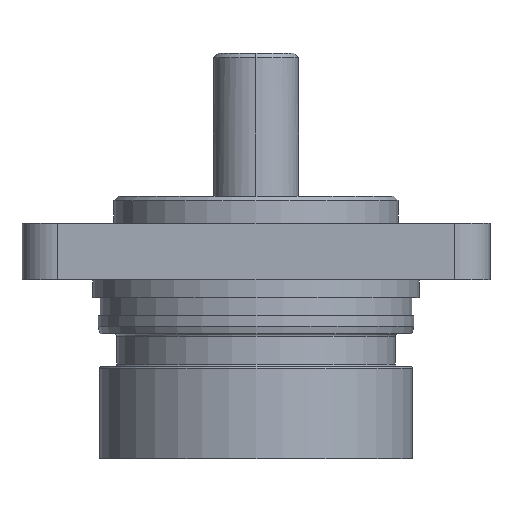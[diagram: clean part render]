
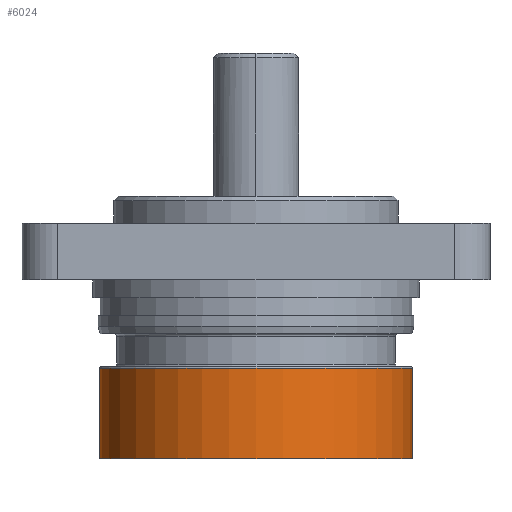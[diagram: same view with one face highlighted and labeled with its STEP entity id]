
A CAD part, front view. The second image highlights one B-rep face of the part: STEP entity #6024.
In plain terms, the highlighted cylindrical face has radius 17.5 mm (diameter 35 mm), a partial arc.
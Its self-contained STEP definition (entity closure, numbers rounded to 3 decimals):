
#619 = DIRECTION ( 'NONE',  ( 0., 0., 1. ) ) ;
#620 = VECTOR ( 'NONE', #619, 1000. ) ;
#621 = CARTESIAN_POINT ( 'NONE',  ( 17.5, 0., 11.138 ) ) ;
#627 = LINE ( 'NONE', #621, #620 ) ;
#629 = CARTESIAN_POINT ( 'NONE',  ( 17.5, 0., -9.9 ) ) ;
#5757 = VERTEX_POINT ( 'NONE', #8229 ) ;
#5759 = VERTEX_POINT ( 'NONE', #8223 ) ;
#5760 = EDGE_CURVE ( 'NONE', #5764, #5759, #8222, .T. ) ;
#5764 = VERTEX_POINT ( 'NONE', #8213 ) ;
#6021 = EDGE_CURVE ( 'NONE', #5759, #6491, #8603, .T. ) ;
#6024 = ADVANCED_FACE ( 'NONE', ( #8599 ), #8598, .T. ) ;
#6025 = EDGE_LOOP ( 'NONE', ( #6073, #6074, #6076, #6077 ) ) ;
#6073 = ORIENTED_EDGE ( 'NONE', *, *, #5760, .F. ) ;
#6074 = ORIENTED_EDGE ( 'NONE', *, *, #6075, .T. ) ;
#6075 = EDGE_CURVE ( 'NONE', #5764, #5757, #8719, .T. ) ;
#6076 = ORIENTED_EDGE ( 'NONE', *, *, #6497, .T. ) ;
#6077 = ORIENTED_EDGE ( 'NONE', *, *, #6021, .F. ) ;
#6491 = VERTEX_POINT ( 'NONE', #629 ) ;
#6497 = EDGE_CURVE ( 'NONE', #5757, #6491, #627, .T. ) ;
#8213 = CARTESIAN_POINT ( 'NONE',  ( -17.5, 0., -20. ) ) ;
#8219 = DIRECTION ( 'NONE',  ( 0., 0., 1. ) ) ;
#8220 = VECTOR ( 'NONE', #8219, 1000. ) ;
#8221 = CARTESIAN_POINT ( 'NONE',  ( -17.5, 0., 11.138 ) ) ;
#8222 = LINE ( 'NONE', #8221, #8220 ) ;
#8223 = CARTESIAN_POINT ( 'NONE',  ( -17.5, 0., -9.9 ) ) ;
#8229 = CARTESIAN_POINT ( 'NONE',  ( 17.5, 0., -20. ) ) ;
#8593 = DIRECTION ( 'NONE',  ( 1., 0., 0. ) ) ;
#8594 = DIRECTION ( 'NONE',  ( 0., 0., 1. ) ) ;
#8595 = CARTESIAN_POINT ( 'NONE',  ( 0., 0., 11.138 ) ) ;
#8596 = AXIS2_PLACEMENT_3D ( 'NONE', #8595, #8594, #8593 ) ;
#8598 = CYLINDRICAL_SURFACE ( 'NONE', #8596, 17.5 ) ;
#8599 = FACE_OUTER_BOUND ( 'NONE', #6025, .T. ) ;
#8600 = DIRECTION ( 'NONE',  ( 1., 0., 0. ) ) ;
#8601 = DIRECTION ( 'NONE',  ( 0., 0., 1. ) ) ;
#8602 = AXIS2_PLACEMENT_3D ( 'NONE', #8608, #8601, #8600 ) ;
#8603 = CIRCLE ( 'NONE', #8602, 17.5 ) ;
#8608 = CARTESIAN_POINT ( 'NONE',  ( 0., 0., -9.9 ) ) ;
#8715 = DIRECTION ( 'NONE',  ( 1., 0., 0. ) ) ;
#8716 = DIRECTION ( 'NONE',  ( 0., 0., 1. ) ) ;
#8717 = CARTESIAN_POINT ( 'NONE',  ( 0., 0., -20. ) ) ;
#8718 = AXIS2_PLACEMENT_3D ( 'NONE', #8717, #8716, #8715 ) ;
#8719 = CIRCLE ( 'NONE', #8718, 17.5 ) ;
